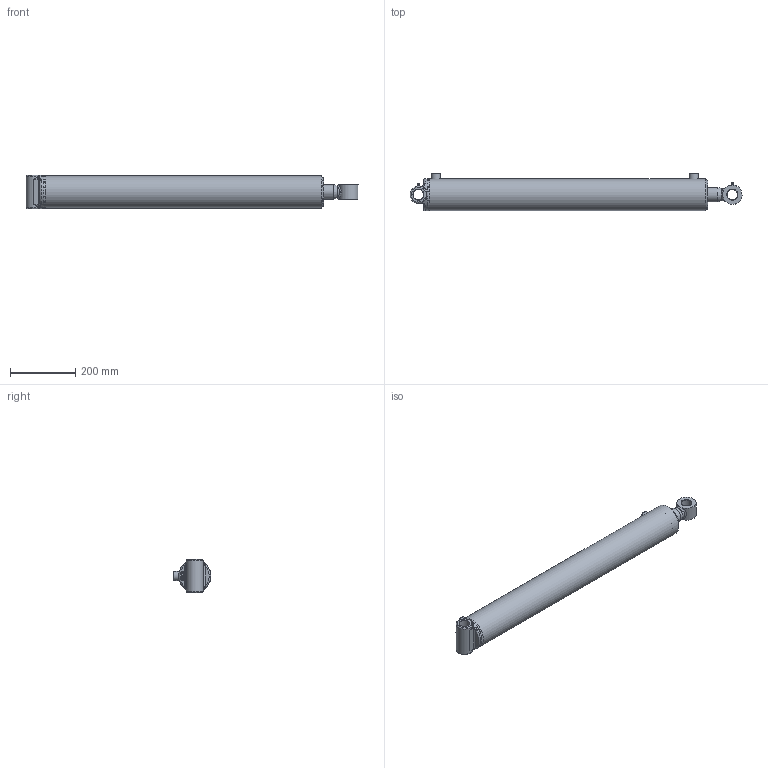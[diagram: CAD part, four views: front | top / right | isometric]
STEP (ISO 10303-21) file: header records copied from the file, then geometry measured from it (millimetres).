
FILE_DESCRIPTION(/* description */ ('Ø3.50 X 30.00 DA'),/* implementation_level */ '2;1');
FILE_NAME(/* name */ 'result.stp',/* time_stamp */ '2024-07-12T20:57:10Z',/* author */ ('AJC'),/* organization */ ('PRINCE MANUFACTURING'),/* preprocessor_version */ 'ST-DEVELOPER v20',/* originating_system */ 'Autodesk Inventor 2024',/* authorisation */ '');
FILE_SCHEMA (('AUTOMOTIVE_DESIGN { 1 0 10303 214 3 1 1 }'));
Length unit declared in the file: inch
Products named in the file (21): PC3530017A00-380XYXA; 0617-XYSF000-33570; 0517-T-33570; 161700179; 200015603; 06Weld1_C360; 0717-P-100; 220000210; 0817-G-175; 230025105; 230025005; 240000022; 240061338; 240000338; 0210A-HAW5-35687XA; 0110A-HAW5-35687; 210600529; 02Weld_C360; 240020007; 250014175; 270010020
Assembly tree (22 placements, depth 3):
  PC3530017A00-380XYXA
    0617-XYSF000-33570
      0517-T-33570
      161700179
      200015603  x2
      06Weld1_C360
    0717-P-100
    220000210
    0817-G-175
    230025105
    230025005
    240000022
    240061338
    240000338
    0210A-HAW5-35687XA
      0110A-HAW5-35687
      210600529
      02Weld_C360
    240020007
    250014175
    270010020  x2
Bounding box: 1020.72 x 116.74 x 101.6 mm (x, y, z)
Volume: 3228074.7 mm3; surface area: 817861.7 mm2
Topology: 26 solids, 26 shells, 536 faces, 1281 edges, 823 vertices
Faces by surface type: plane 144, bspline 128, torus 89, cylinder 87, cone 84, sphere 4
Full cylindrical faces by diameter (mm): 2.143 x4, 3.175 x1, 5.359 x2, 6.35 x2, 9.525 x2, 12.649 x1, 12.7 x1, 12.725 x1, 17.323 x2, 23.444 x1, 25.349 x1, 25.476 x1, 27.965 x1, 28.575 x2, 32.131 x2, 44.45 x1, 44.526 x2, 45.644 x2, 46.482 x1, 46.838 x1, 51.613 x1, 52.807 x1, 54 x1, 55.626 x2, 57.15 x2, 61.976 x1, 69.85 x2, 79.477 x2, 80.213 x2, 83.82 x1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
Entity records: 29468 total; most frequent: CARTESIAN_POINT 17326, ORIENTED_EDGE 2352, DIRECTION 2142, EDGE_CURVE 1176, AXIS2_PLACEMENT_3D 908, VERTEX_POINT 762, EDGE_LOOP 572, FACE_OUTER_BOUND 492
